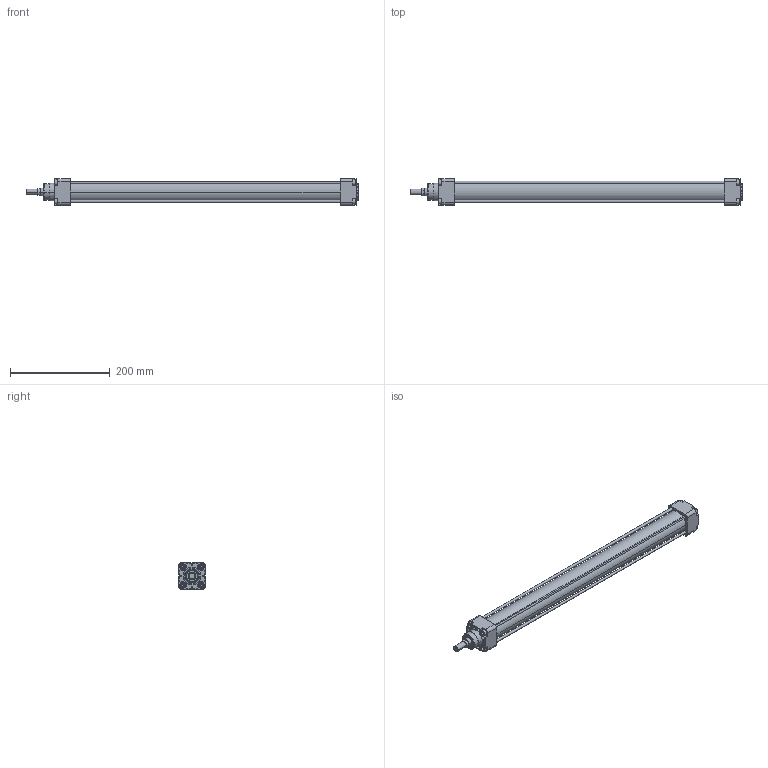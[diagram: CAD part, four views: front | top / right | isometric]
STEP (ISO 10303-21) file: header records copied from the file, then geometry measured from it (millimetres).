
FILE_DESCRIPTION(('CATIA V5 STEP Exchange'),'2;1');
FILE_NAME('D:\stp file for catalog\PNC\40\PNC 40-16-500.stp','2015-10-14T12:35:08+00:00',('none'),('none'),'Version 5-6 Release 2012','CATIA V5 STEP AP203','none');
FILE_SCHEMA(('CONFIG_CONTROL_DESIGN'));
Length unit declared in the file: millimetre
Products named in the file (1): PNC 40-16-500-00
Assembly tree (2 placements, depth 2):
  PNC 40-16-500-00
    #58
    #14829
Bounding box: 666.5 x 53 x 53 mm (x, y, z)
Volume: 520389.2 mm3; surface area: 262117 mm2
Topology: 2 solids, 2 shells, 562 faces, 1417 edges, 920 vertices
Faces by surface type: plane 352, cylinder 158, torus 26, cone 18, extrusion 8
Entity records: 15258 total; most frequent: CARTESIAN_POINT 2959, ORIENTED_EDGE 2834, DIRECTION 1897, EDGE_CURVE 1417, VERTEX_POINT 920, VECTOR 877, LINE 869, AXIS2_PLACEMENT_3D 756
